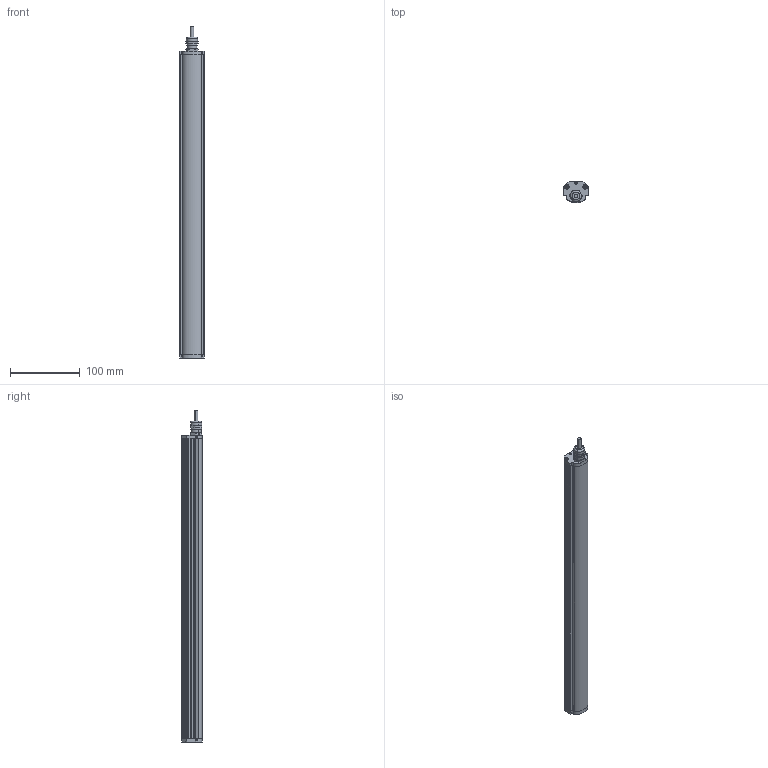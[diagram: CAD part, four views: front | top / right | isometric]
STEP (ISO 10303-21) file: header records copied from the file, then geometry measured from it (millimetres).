
FILE_DESCRIPTION (( 'STEP AP214' ), '1' );
FILE_NAME ('L1050_0430.STEP', '2021-09-20T15:47:12', ( '' ), ( '' ), 'SwSTEP 2.0', 'SolidWorks 2021', '' );
FILE_SCHEMA (( 'AUTOMOTIVE_DESIGN' ));
Length unit declared in the file: millimetre
Products named in the file (9): Kabel ø5,4; L1G001050, Profil 430mm; L1G001050, Platine; SKINTOP MS-M 12x1,5; socket countersunk head screw_din_10mm_DIN 7991 - M3 x 30 --- 12N; L1G001050, Abdeckung 1; L1050_0430; L1G001050, Abdeckung 2; L1G001050_ Cover 430mm 
Assembly tree (18 placements, depth 2):
  L1050_0430
    L1G001050, Profil 430mm
    L1G001050_ Cover 430mm 
    L1G001050, Abdeckung 2
    L1G001050, Abdeckung 1
    L1G001050, Platine  x8
    Kabel ø5,4
    SKINTOP MS-M 12x1,5
    socket countersunk head screw_din_10mm_DIN 7991 - M3 x 30 --- 12N  x4
Bounding box: 35 x 30.03 x 475.86 mm (x, y, z)
Volume: 197512.2 mm3; surface area: 147047.1 mm2
Topology: 18 solids, 19 shells, 923 faces, 2266 edges, 1474 vertices
Faces by surface type: plane 714, cylinder 139, cone 52, torus 14, bspline 4
Entity records: 13276 total; most frequent: CARTESIAN_POINT 2414, DIRECTION 2068, ORIENTED_EDGE 2008, EDGE_CURVE 1004, AXIS2_PLACEMENT_3D 708, VERTEX_POINT 653, LINE 652, VECTOR 652
